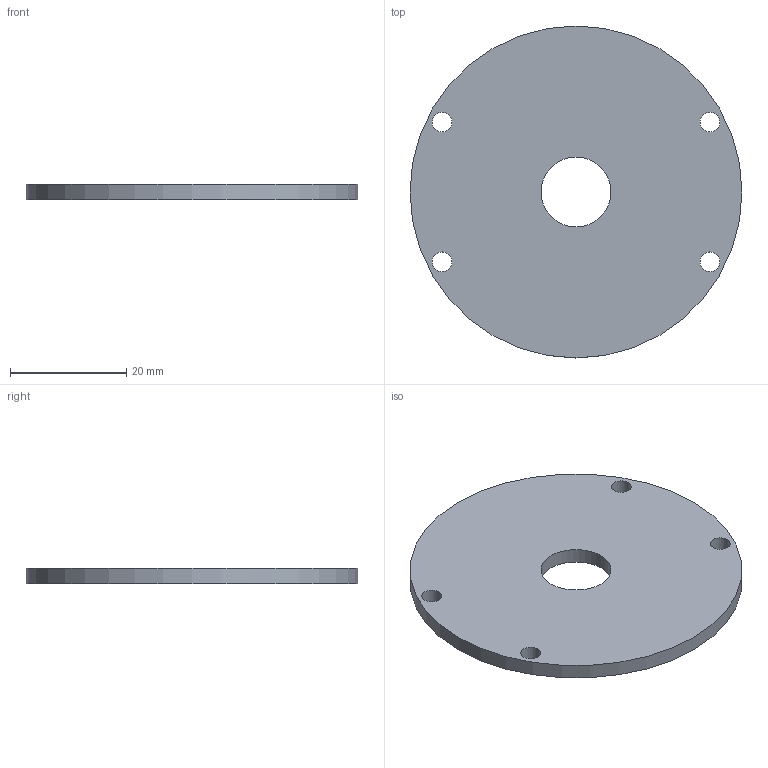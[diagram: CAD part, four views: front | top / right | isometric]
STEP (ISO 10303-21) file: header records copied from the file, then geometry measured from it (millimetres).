
FILE_DESCRIPTION(('FreeCAD Model'),'2;1');
FILE_NAME('Open CASCADE Shape Model','2026-09-19T17:18:18',('FreeCAD'),( 'FreeCAD'),'Open CASCADE STEP processor 7.8','FreeCAD','Unknown');
FILE_SCHEMA(('AUTOMOTIVE_DESIGN { 1 0 10303 214 1 1 1 1 }'));
Length unit declared in the file: millimetre
Products named in the file (1): Open CASCADE STEP translator 7.8 7
Bounding box: 57 x 57 x 2.6 mm (x, y, z)
Volume: 6246.1 mm3; surface area: 5479.4 mm2
Topology: 1 solids, 1 shells, 8 faces, 18 edges, 12 vertices
Faces by surface type: cylinder 6, plane 2
Full cylindrical faces by diameter (mm): 3.4 x4, 12 x1, 57 x1
Entity records: 264 total; most frequent: DIRECTION 48, CARTESIAN_POINT 39, ORIENTED_EDGE 36, AXIS2_PLACEMENT_3D 21, FACE_BOUND 18, EDGE_LOOP 18, EDGE_CURVE 18, VERTEX_POINT 12
